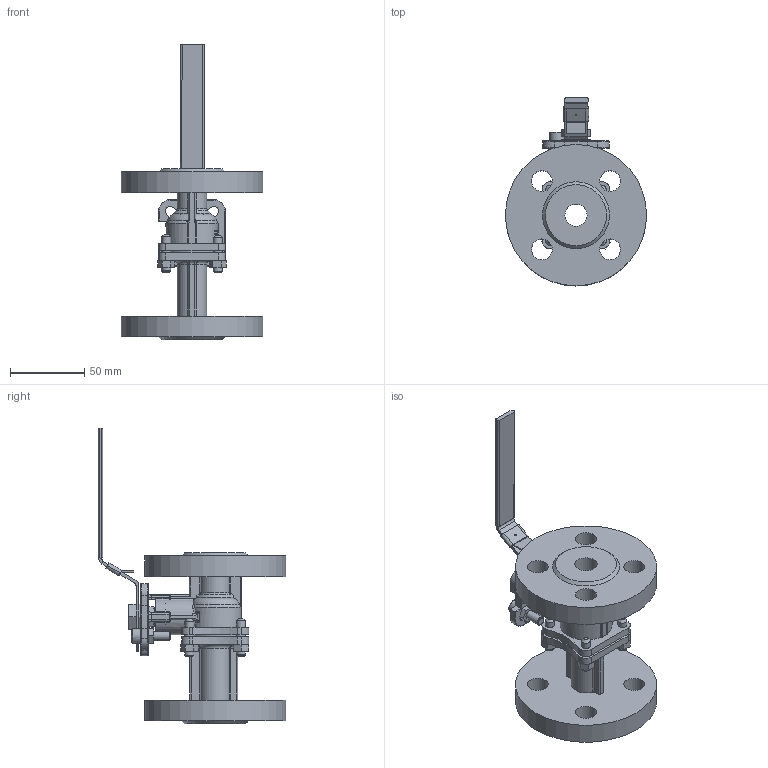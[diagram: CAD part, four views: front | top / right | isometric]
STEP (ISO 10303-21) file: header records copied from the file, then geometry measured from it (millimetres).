
FILE_DESCRIPTION(('STEP AP242'), '1');
FILE_NAME('BV3232P(2pc)-FP-F-ISO-H Êðàí øàðîâîé DN.ru Äó15 Ðó40', '', ('UNSPECIFIED'), ('UNSPECIFIED'), 'C3D Converter', 'C3D Toolkit', '');
FILE_SCHEMA(('AP242_MANAGED_MODEL_BASED_3D_ENGINEERING_MIM_LF { 1 0 10303 442 1 1 4 }'));
Length unit declared in the file: millimetre
Products named in the file (1): BV3232P(2pc)-FP-F-ISO-H
Bounding box: 95 x 126.2 x 198.87 mm (x, y, z)
Volume: 250177.9 mm3; surface area: 78089.2 mm2
Topology: 1 solids, 1 shells, 760 faces, 1871 edges, 1130 vertices
Faces by surface type: plane 332, cylinder 204, cone 94, bspline 75, torus 47, sphere 8
Full cylindrical faces by diameter (mm): 1 x1, 5 x1, 6 x14, 10 x1, 13 x1, 14 x8, 15 x3, 20 x1, 22.889 x2, 30 x1, 38 x1, 95 x2
Entity records: 36196 total; most frequent: CARTESIAN_POINT 15470, ORIENTED_EDGE 3574, DIRECTION 3341, EDGE_CURVE 1787, AXIS2_PLACEMENT_3D 1263, VERTEX_POINT 1118, EDGE_LOOP 898, FACE_BOUND 829
